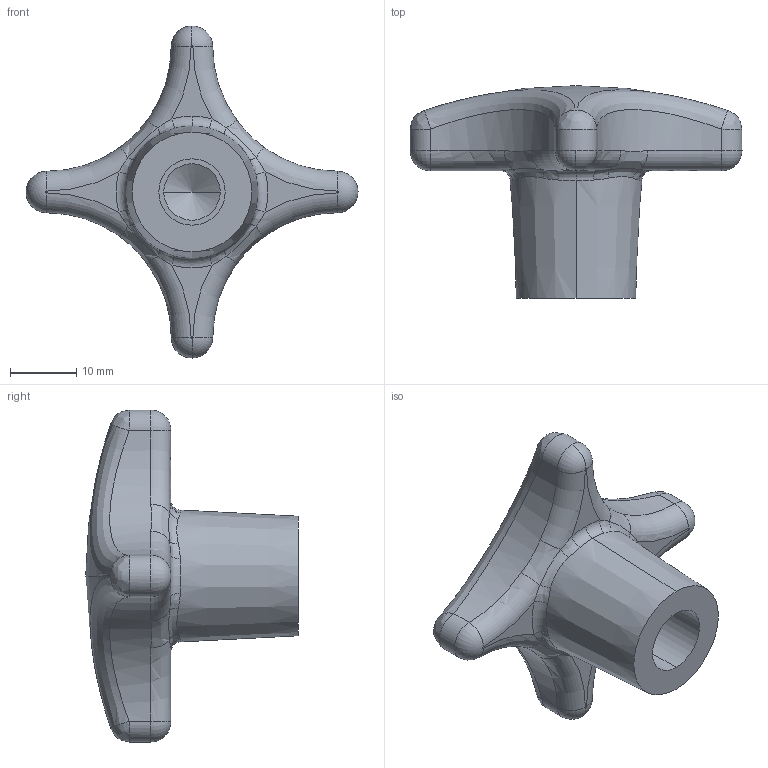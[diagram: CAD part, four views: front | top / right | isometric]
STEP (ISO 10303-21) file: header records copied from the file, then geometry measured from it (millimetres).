
FILE_DESCRIPTION (( 'STEP AP203' ), '1' );
FILE_NAME ('70040.W0850.step', '2019-01-26T19:34:31', ( '' ), ( '' ), 'SwSTEP 2.0', 'SolidWorks 2017', '' );
FILE_SCHEMA (( 'CONFIG_CONTROL_DESIGN' ));
Length unit declared in the file: millimetre
Products named in the file (1): 70040.W0850
Bounding box: 50 x 32 x 50 mm (x, y, z)
Volume: 13070.2 mm3; surface area: 4865.7 mm2
Topology: 1 solids, 1 shells, 68 faces, 160 edges, 94 vertices
Faces by surface type: bspline 24, torus 19, cylinder 13, plane 6, cone 4, sphere 2
Entity records: 3678 total; most frequent: CARTESIAN_POINT 2168, ORIENTED_EDGE 316, DIRECTION 295, EDGE_CURVE 158, AXIS2_PLACEMENT_3D 139, CIRCLE 94, VERTEX_POINT 94, EDGE_LOOP 70
